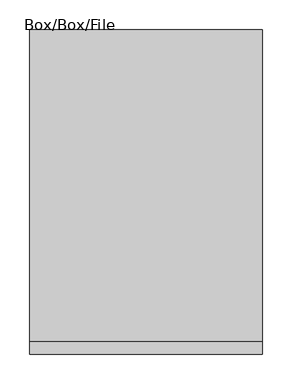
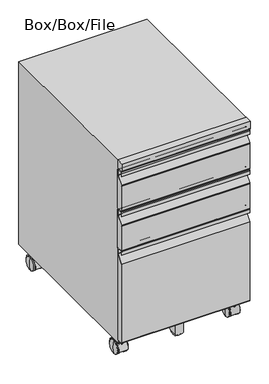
"""IFC4 building model written with IfcOpenShell, lengths in millimetres: furniture geometry, SmithSystem_AM_Storage_Pedestal_Drawer : Box/Box/File."""

from ifc_helpers import new_model, si_unit, point, frame, frame_2d, origin, place, context, project, spatial, polyline, circle_curve, ellipse_curve, trimmed, segment, composite_curve, outline, extrude, source, transform, mapped, element, save
from ifc_brep_helpers import plane_surface, cylinder_surface, revolved_surface, advanced_brep


def box_box_file_3f059d02(model_context):
    return source(origin(), model_context, "Body", "SolidModel", [
        extrude(outline(composite_curve([segment(trimmed(circle_curve(frame_2d((25.519541, 0.0)), 17.569454), [point((12.5128082, -11.8114611))], [point((12.5128082, 11.8114611))], False, "CARTESIAN"), True, "CONTINUOUS"), segment(polyline([(12.5128082, 11.8114611), (58.851629, 11.8114611), (58.851629, -11.8114611), (12.5128082, -11.8114611)]), True, "CONTINUOUS")], self_intersect=False)), frame((0.0, -239.1801908, 0.0), z_axis=(0.0, 1.0, 0.0), x_axis=(0.0, 0.0, 1.0)), (0.0, 0.0, 1.0), 1.9717693),
        extrude(outline(composite_curve([segment(polyline([(-218.8000524, 47.8691672), (-213.0953253, 47.8691672), (-209.8083234, 35.6019092)]), True, "CONTINUOUS"), segment(trimmed(circle_curve(frame_2d((-273.700867, 18.4819538)), 66.1464285), [point((-209.8083234, 35.6019092))], [point((-207.5648143, 17.310401))], False, "CARTESIAN"), True, "CONTINUOUS"), segment(trimmed(circle_curve(frame_2d((-212.4492427, 17.3969251)), 4.8851947), [point((-207.5648143, 17.310401))], [point((-212.3466334, 12.5128082))], False, "CARTESIAN"), True, "CONTINUOUS"), segment(polyline([(-212.3466334, 12.5128082), (-238.5451908, 12.5128082), (-238.5451908, 57.7565582), (-246.8469422, 57.7565582), (-246.8469422, 58.851629), (-208.747142, 58.851629), (-208.747142, 57.7565582), (-218.8000524, 57.7565582), (-218.8000524, 47.8691672)]), True, "CONTINUOUS")], self_intersect=False)), frame((-11.8114611, 0.0, 0.0), z_axis=(1.0, 0.0, 0.0), x_axis=(0.0, 1.0, 0.0)), (0.0, 0.0, 1.0), 2.1259673),
        extrude(outline(composite_curve([segment(polyline([(-218.8000524, 47.8691672), (-213.0953253, 47.8691672), (-209.8083234, 35.6019092)]), True, "CONTINUOUS"), segment(trimmed(circle_curve(frame_2d((-273.700867, 18.4819538)), 66.1464285), [point((-209.8083234, 35.6019092))], [point((-207.5648143, 17.310401))], False, "CARTESIAN"), True, "CONTINUOUS"), segment(trimmed(circle_curve(frame_2d((-212.4492427, 17.3969251)), 4.8851947), [point((-207.5648143, 17.310401))], [point((-212.3466334, 12.5128082))], False, "CARTESIAN"), True, "CONTINUOUS"), segment(polyline([(-212.3466334, 12.5128082), (-238.5451908, 12.5128082), (-238.5451908, 57.7565582), (-246.8469422, 57.7565582), (-246.8469422, 58.851629), (-208.747142, 58.851629), (-208.747142, 57.7565582), (-218.8000524, 57.7565582), (-218.8000524, 47.8691672)]), True, "CONTINUOUS")], self_intersect=False)), frame((9.6854938, 0.0, 0.0), z_axis=(1.0, 0.0, 0.0), x_axis=(0.0, 1.0, 0.0)), (0.0, 0.0, 1.0), 2.1259673),
        extrude(outline(composite_curve([segment(trimmed(circle_curve(frame_2d((-220.2090512, 19.1855053)), 19.05), [point((-239.2590512, 19.1855053))], [point((-201.1590512, 19.1855053))], False, "CARTESIAN"), True, "CONTINUOUS"), segment(trimmed(circle_curve(frame_2d((-220.2090512, 19.1855053)), 19.05), [point((-201.1590512, 19.1855053))], [point((-239.2590512, 19.1855053))], False, "CARTESIAN"), True, "CONTINUOUS")], self_intersect=False)), frame((-7.8737785, 0.0, 0.0), z_axis=(1.0, 0.0, 0.0), x_axis=(0.0, 1.0, 0.0)), (0.0, 0.0, 1.0), 15.7491352),
        advanced_brep(
        [(-172.640625, 209.3812508, 32.2912453), (-172.640625, 221.4847995, 32.2912453), (-172.640625, 215.4330251, 32.2912453), (-172.640625, 209.3812508, 47.5922196), (-172.640625, 221.4847995, 47.5922196), (-172.640625, 211.8974306, 47.5922196), (-172.640625, 218.9686197, 47.5922196), (-172.640625, 211.8974306, 50.5480504), (-172.640625, 218.9686197, 50.5480504), (-172.640625, 208.9918038, 50.5480504), (-172.640625, 221.8742465, 50.5480504), (-172.640625, 208.9918038, 53.7603737), (-172.640625, 221.8742465, 53.7603737), (-172.640625, 204.0569269, 57.7565582), (-172.640625, 226.8091233, 57.7565582), (-172.640625, 204.0569269, 58.8558526), (-172.640625, 226.8091233, 58.8558526), (-172.640625, 215.4330251, 58.8558526)],
        [
            (0, 1, circle_curve(frame((-172.640625, 215.4330251, 32.2912453), z_axis=(0.0, 0.0, -1.0), x_axis=(0.0, 1.0, 0.0)), 6.0517744)),
            (1, 2),
            (2, 0),
            (1, 0, circle_curve(frame((-172.640625, 215.4330251, 32.2912453), z_axis=(0.0, 0.0, -1.0), x_axis=(0.0, 1.0, 0.0)), 6.0517744)),
            (3, 4, circle_curve(frame((-172.640625, 215.4330251, 47.5922196), z_axis=(0.0, 0.0, -1.0), x_axis=(0.0, 1.0, 0.0)), 6.0517744)),
            (4, 1),
            (0, 3),
            (4, 3, circle_curve(frame((-172.640625, 215.4330251, 47.5922196), z_axis=(0.0, 0.0, -1.0), x_axis=(0.0, 1.0, 0.0)), 6.0517744)),
            (5, 6, circle_curve(frame((-172.640625, 215.4330251, 47.5922196), z_axis=(0.0, 0.0, -1.0), x_axis=(0.0, 1.0, 0.0)), 3.5355946)),
            (6, 4),
            (3, 5),
            (6, 5, circle_curve(frame((-172.640625, 215.4330251, 47.5922196), z_axis=(0.0, 0.0, -1.0), x_axis=(0.0, 1.0, 0.0)), 3.5355946)),
            (7, 8, circle_curve(frame((-172.640625, 215.4330251, 50.5480504), z_axis=(0.0, 0.0, -1.0), x_axis=(0.0, 1.0, 0.0)), 3.5355946)),
            (8, 6),
            (5, 7),
            (8, 7, circle_curve(frame((-172.640625, 215.4330251, 50.5480504), z_axis=(0.0, 0.0, -1.0), x_axis=(0.0, 1.0, 0.0)), 3.5355946)),
            (9, 10, circle_curve(frame((-172.640625, 215.4330251, 50.5480504), z_axis=(0.0, 0.0, -1.0), x_axis=(0.0, 1.0, 0.0)), 6.4412214)),
            (10, 8),
            (7, 9),
            (10, 9, circle_curve(frame((-172.640625, 215.4330251, 50.5480504), z_axis=(0.0, 0.0, -1.0), x_axis=(0.0, 1.0, 0.0)), 6.4412214)),
            (11, 12, circle_curve(frame((-172.640625, 215.4330251, 53.7603737), z_axis=(0.0, 0.0, -1.0), x_axis=(0.0, 1.0, 0.0)), 6.4412214)),
            (12, 10),
            (9, 11),
            (12, 11, circle_curve(frame((-172.640625, 215.4330251, 53.7603737), z_axis=(0.0, 0.0, -1.0), x_axis=(0.0, 1.0, 0.0)), 6.4412214)),
            (13, 14, circle_curve(frame((-172.640625, 215.4330251, 57.7565582), z_axis=(0.0, 0.0, -1.0), x_axis=(0.0, 1.0, 0.0)), 11.3760982)),
            (14, 12),
            (11, 13),
            (14, 13, circle_curve(frame((-172.640625, 215.4330251, 57.7565582), z_axis=(0.0, 0.0, -1.0), x_axis=(0.0, 1.0, 0.0)), 11.3760982)),
            (15, 16, circle_curve(frame((-172.640625, 215.4330251, 58.8558526), z_axis=(0.0, 0.0, -1.0), x_axis=(0.0, 1.0, 0.0)), 11.3760982)),
            (16, 14),
            (13, 15),
            (16, 15, circle_curve(frame((-172.640625, 215.4330251, 58.8558526), z_axis=(0.0, 0.0, -1.0), x_axis=(0.0, 1.0, 0.0)), 11.3760982)),
            (17, 16),
            (15, 17),
        ],
        [
            plane_surface(frame((-172.640625, 215.4330251, 32.2912453), z_axis=(0.0, 0.0, -1.0), x_axis=(0.0, 1.0, 0.0))),
            cylinder_surface(frame((-172.640625, 215.4330251, 52.5058526), z_axis=(0.0, 0.0, 1.0), x_axis=(0.0, 1.0, 0.0)), 6.0517744),
            plane_surface(frame((-172.640625, 215.4330251, 47.5922196), z_axis=(0.0, 0.0, 1.0), x_axis=(0.0, 1.0, 0.0))),
            cylinder_surface(frame((-172.640625, 215.4330251, 52.5058526), z_axis=(0.0, 0.0, 1.0), x_axis=(0.0, 1.0, 0.0)), 3.5355946),
            plane_surface(frame((-172.640625, 215.4330251, 50.5480504), z_axis=(0.0, 0.0, -1.0), x_axis=(0.0, 1.0, 0.0))),
            cylinder_surface(frame((-172.640625, 215.4330251, 52.5058526), z_axis=(0.0, 0.0, 1.0), x_axis=(0.0, 1.0, 0.0)), 6.4412214),
            revolved_surface(polyline([(-172.640625, 221.8742465, 53.7603737), (-172.640625, 226.8091233, 57.7565582)]), (-172.640625, 215.4330251, 52.5058526), (0.0, 0.0, 1.0)),
            cylinder_surface(frame((-172.640625, 215.4330251, 52.5058526), z_axis=(0.0, 0.0, 1.0), x_axis=(0.0, 1.0, 0.0)), 11.3760982),
            plane_surface(frame((-172.640625, 215.4330251, 58.8558526), z_axis=(0.0, 0.0, 1.0), x_axis=(0.0, 1.0, 0.0))),
        ],
        [
            (0, [[1, 2, 3]]),
            (0, [[4, -3, -2]]),
            (1, [[5, 6, -1, 7]]),
            (1, [[8, -7, -4, -6]]),
            (2, [[9, 10, -5, 11]]),
            (2, [[12, -11, -8, -10]]),
            (3, [[13, 14, -9, 15]]),
            (3, [[16, -15, -12, -14]]),
            (4, [[17, 18, -13, 19]]),
            (4, [[20, -19, -16, -18]]),
            (5, [[21, 22, -17, 23]]),
            (5, [[24, -23, -20, -22]]),
            (6, [[25, 26, -21, 27]]),
            (6, [[28, -27, -24, -26]]),
            (7, [[29, 30, -25, 31]]),
            (7, [[32, -31, -28, -30]]),
            (8, [[33, -29, 34]]),
            (8, [[-34, -32, -33]]),
        ],
    ),
        extrude(outline(composite_curve([segment(polyline([(206.6785166, 14.1727053), (205.3366399, 14.1727053)]), True, "CONTINUOUS"), segment(trimmed(circle_curve(frame_2d((229.3615093, 20.8903031)), 24.9463518), [point((205.3366399, 14.1727053))], [point((253.3863787, 14.1727053))], False, "CARTESIAN"), True, "CONTINUOUS"), segment(polyline([(253.3863787, 14.1727053), (251.1285166, 14.1727053)]), True, "CONTINUOUS"), segment(trimmed(circle_curve(frame_2d((228.9035166, 20.3274442)), 23.0614708), [point((251.1285166, 14.1727053))], [point((206.6785166, 14.1727053))], True, "CARTESIAN"), True, "CONTINUOUS")], self_intersect=False)), frame((-185.6622958, 0.0, 0.0), z_axis=(1.0, 0.0, 0.0), x_axis=(0.0, 1.0, 0.0)), (0.0, 0.0, 1.0), 27.6209603),
        advanced_brep(
        [(-164.0722879, 229.39375, -0.0102593), (-164.0722879, 229.39375, 41.1593949), (-155.4362235, 229.39375, 41.1593949), (-155.4362235, 229.39375, -0.0102593), (-152.8790182, 229.39375, 20.5745678), (-164.0722879, 229.39375, 20.5745678)],
        [
            (0, 1, circle_curve(frame((-164.0722879, 229.39375, 20.5745678), z_axis=(1.0, 0.0, 0.0), x_axis=(0.0, 0.0, 1.0)), 20.5848271)),
            (1, 2),
            (2, 3, circle_curve(frame((-155.4362235, 229.39375, 20.5745678), z_axis=(-1.0, 0.0, 0.0), x_axis=(0.0, 0.0, 1.0)), 20.5848271)),
            (3, 0),
            (1, 0, circle_curve(frame((-164.0722879, 229.39375, 20.5745678), z_axis=(1.0, 0.0, 0.0), x_axis=(0.0, 0.0, 1.0)), 20.5848271)),
            (3, 2, circle_curve(frame((-155.4362235, 229.39375, 20.5745678), z_axis=(-1.0, 0.0, 0.0), x_axis=(0.0, 0.0, 1.0)), 20.5848271)),
            (2, 4, circle_curve(frame((-214.5759981, 229.39375, 23.3613464), z_axis=(0.0, 1.0, 0.0), x_axis=(-1.0, 0.0, 0.0)), 61.7598856)),
            (4, 3, circle_curve(frame((-214.5759981, 229.39375, 17.7877892), z_axis=(0.0, 1.0, 0.0), x_axis=(-1.0, 0.0, 0.0)), 61.7598856)),
            (5, 1),
            (0, 5),
        ],
        [
            cylinder_surface(frame((-160.3278037, 229.39375, 20.5745678), z_axis=(-1.0, 0.0, 0.0), x_axis=(0.0, 0.0, 1.0)), 20.5848271),
            revolved_surface(trimmed(ellipse_curve(frame((-214.5759981, 229.39375, 23.3613464), z_axis=(0.0, -1.0, 0.0), x_axis=(-1.0, 0.0, 0.0)), 61.7598856, 61.7598856), [point((-152.8790182, 229.39375, 20.5745678))], [point((-155.4362235, 229.39375, 41.1593949))], True, "CARTESIAN"), (-160.3278037, 229.39375, 20.5745678), (-1.0, 0.0, 0.0)),
            plane_surface(frame((-164.0722879, 229.39375, 20.5745678), z_axis=(-1.0, 0.0, 0.0), x_axis=(0.0, 0.0, 1.0))),
        ],
        [
            (0, [[1, 2, 3, 4]]),
            (0, [[5, -4, 6, -2]]),
            (1, [[-3, 7, 8]]),
            (1, [[-6, -8, -7]]),
            (2, [[9, -1, 10]]),
            (2, [[-10, -5, -9]]),
        ],
    ),
        advanced_brep(
        [(-188.2674144, 229.39375, -0.0102593), (-188.2674144, 229.39375, 41.1593949), (-179.63135, 229.39375, 41.1593949), (-179.63135, 229.39375, -0.0102593), (-190.8246198, 229.39375, 20.5745678), (-179.63135, 229.39375, 20.5745678)],
        [
            (0, 1, circle_curve(frame((-188.2674144, 229.39375, 20.5745678), z_axis=(1.0, 0.0, 0.0), x_axis=(0.0, 0.0, 1.0)), 20.5848271)),
            (1, 2),
            (2, 3, circle_curve(frame((-179.63135, 229.39375, 20.5745678), z_axis=(-1.0, 0.0, 0.0), x_axis=(0.0, 0.0, 1.0)), 20.5848271)),
            (3, 0),
            (1, 0, circle_curve(frame((-188.2674144, 229.39375, 20.5745678), z_axis=(1.0, 0.0, 0.0), x_axis=(0.0, 0.0, 1.0)), 20.5848271)),
            (3, 2, circle_curve(frame((-179.63135, 229.39375, 20.5745678), z_axis=(-1.0, 0.0, 0.0), x_axis=(0.0, 0.0, 1.0)), 20.5848271)),
            (4, 1, circle_curve(frame((-129.1276399, 229.39375, 23.3613464), z_axis=(0.0, 1.0, 0.0), x_axis=(1.0, 0.0, 0.0)), 61.7598856)),
            (0, 4, circle_curve(frame((-129.1276399, 229.39375, 17.7877892), z_axis=(0.0, 1.0, 0.0), x_axis=(1.0, 0.0, 0.0)), 61.7598856)),
            (2, 5),
            (5, 3),
        ],
        [
            cylinder_surface(frame((-183.3758343, 229.39375, 20.5745678), z_axis=(-1.0, 0.0, 0.0), x_axis=(0.0, 0.0, 1.0)), 20.5848271),
            revolved_surface(trimmed(ellipse_curve(frame((-129.1276399, 229.39375, 23.3613464), z_axis=(0.0, -1.0, 0.0), x_axis=(1.0, 0.0, 0.0)), 61.7598856, 61.7598856), [point((-188.2674144, 229.39375, 41.1593949))], [point((-190.8246198, 229.39375, 20.5745678))], True, "CARTESIAN"), (-183.3758343, 229.39375, 20.5745678), (-1.0, 0.0, 0.0)),
            plane_surface(frame((-179.63135, 229.39375, 20.5745678), z_axis=(1.0, 0.0, 0.0), x_axis=(0.0, 0.0, 1.0))),
        ],
        [
            (0, [[1, 2, 3, 4]]),
            (0, [[5, -4, 6, -2]]),
            (1, [[7, -1, 8]]),
            (1, [[-8, -5, -7]]),
            (2, [[-3, 9, 10]]),
            (2, [[-6, -10, -9]]),
        ],
    ),
        advanced_brep(
        [(172.640625, 215.4330251, 32.2912453), (172.640625, 221.4847995, 32.2912453), (172.640625, 209.3812508, 32.2912453), (172.640625, 221.4847995, 47.5922196), (172.640625, 209.3812508, 47.5922196), (172.640625, 218.9686197, 47.5922196), (172.640625, 211.8974306, 47.5922196), (172.640625, 218.9686197, 50.5480504), (172.640625, 211.8974306, 50.5480504), (172.640625, 221.8742465, 50.5480504), (172.640625, 208.9918038, 50.5480504), (172.640625, 221.8742465, 53.7603737), (172.640625, 208.9918038, 53.7603737), (172.640625, 226.8091233, 57.7565582), (172.640625, 204.0569269, 57.7565582), (172.640625, 226.8091233, 58.8558526), (172.640625, 204.0569269, 58.8558526), (172.640625, 215.4330251, 58.8558526)],
        [
            (0, 1),
            (1, 2, circle_curve(frame((172.640625, 215.4330251, 32.2912453), z_axis=(0.0, 0.0, -1.0), x_axis=(0.0, 1.0, 0.0)), 6.0517744)),
            (2, 0),
            (2, 1, circle_curve(frame((172.640625, 215.4330251, 32.2912453), z_axis=(0.0, 0.0, -1.0), x_axis=(0.0, 1.0, 0.0)), 6.0517744)),
            (1, 3),
            (3, 4, circle_curve(frame((172.640625, 215.4330251, 47.5922196), z_axis=(0.0, 0.0, -1.0), x_axis=(0.0, 1.0, 0.0)), 6.0517744)),
            (4, 2),
            (4, 3, circle_curve(frame((172.640625, 215.4330251, 47.5922196), z_axis=(0.0, 0.0, -1.0), x_axis=(0.0, 1.0, 0.0)), 6.0517744)),
            (3, 5),
            (5, 6, circle_curve(frame((172.640625, 215.4330251, 47.5922196), z_axis=(0.0, 0.0, -1.0), x_axis=(0.0, 1.0, 0.0)), 3.5355946)),
            (6, 4),
            (6, 5, circle_curve(frame((172.640625, 215.4330251, 47.5922196), z_axis=(0.0, 0.0, -1.0), x_axis=(0.0, 1.0, 0.0)), 3.5355946)),
            (5, 7),
            (7, 8, circle_curve(frame((172.640625, 215.4330251, 50.5480504), z_axis=(0.0, 0.0, -1.0), x_axis=(0.0, 1.0, 0.0)), 3.5355946)),
            (8, 6),
            (8, 7, circle_curve(frame((172.640625, 215.4330251, 50.5480504), z_axis=(0.0, 0.0, -1.0), x_axis=(0.0, 1.0, 0.0)), 3.5355946)),
            (7, 9),
            (9, 10, circle_curve(frame((172.640625, 215.4330251, 50.5480504), z_axis=(0.0, 0.0, -1.0), x_axis=(0.0, 1.0, 0.0)), 6.4412214)),
            (10, 8),
            (10, 9, circle_curve(frame((172.640625, 215.4330251, 50.5480504), z_axis=(0.0, 0.0, -1.0), x_axis=(0.0, 1.0, 0.0)), 6.4412214)),
            (9, 11),
            (11, 12, circle_curve(frame((172.640625, 215.4330251, 53.7603737), z_axis=(0.0, 0.0, -1.0), x_axis=(0.0, 1.0, 0.0)), 6.4412214)),
            (12, 10),
            (12, 11, circle_curve(frame((172.640625, 215.4330251, 53.7603737), z_axis=(0.0, 0.0, -1.0), x_axis=(0.0, 1.0, 0.0)), 6.4412214)),
            (11, 13),
            (13, 14, circle_curve(frame((172.640625, 215.4330251, 57.7565582), z_axis=(0.0, 0.0, -1.0), x_axis=(0.0, 1.0, 0.0)), 11.3760982)),
            (14, 12),
            (14, 13, circle_curve(frame((172.640625, 215.4330251, 57.7565582), z_axis=(0.0, 0.0, -1.0), x_axis=(0.0, 1.0, 0.0)), 11.3760982)),
            (13, 15),
            (15, 16, circle_curve(frame((172.640625, 215.4330251, 58.8558526), z_axis=(0.0, 0.0, -1.0), x_axis=(0.0, 1.0, 0.0)), 11.3760982)),
            (16, 14),
            (16, 15, circle_curve(frame((172.640625, 215.4330251, 58.8558526), z_axis=(0.0, 0.0, -1.0), x_axis=(0.0, 1.0, 0.0)), 11.3760982)),
            (15, 17),
            (17, 16),
        ],
        [
            plane_surface(frame((172.640625, 215.4330251, 32.2912453), z_axis=(0.0, 0.0, -1.0), x_axis=(0.0, 1.0, 0.0))),
            cylinder_surface(frame((172.640625, 215.4330251, 52.5058526), z_axis=(0.0, 0.0, -1.0), x_axis=(0.0, 1.0, 0.0)), 6.0517744),
            plane_surface(frame((172.640625, 215.4330251, 47.5922196), z_axis=(0.0, 0.0, 1.0), x_axis=(0.0, 1.0, 0.0))),
            cylinder_surface(frame((172.640625, 215.4330251, 52.5058526), z_axis=(0.0, 0.0, -1.0), x_axis=(0.0, 1.0, 0.0)), 3.5355946),
            plane_surface(frame((172.640625, 215.4330251, 50.5480504), z_axis=(0.0, 0.0, -1.0), x_axis=(0.0, 1.0, 0.0))),
            cylinder_surface(frame((172.640625, 215.4330251, 52.5058526), z_axis=(0.0, 0.0, -1.0), x_axis=(0.0, 1.0, 0.0)), 6.4412214),
            revolved_surface(polyline([(172.640625, 226.8091233, 57.7565582), (172.640625, 221.8742465, 53.7603737)]), (172.640625, 215.4330251, 52.5058526), (0.0, 0.0, -1.0)),
            cylinder_surface(frame((172.640625, 215.4330251, 52.5058526), z_axis=(0.0, 0.0, -1.0), x_axis=(0.0, 1.0, 0.0)), 11.3760982),
            plane_surface(frame((172.640625, 215.4330251, 58.8558526), z_axis=(0.0, 0.0, 1.0), x_axis=(0.0, 1.0, 0.0))),
        ],
        [
            (0, [[1, 2, 3]]),
            (0, [[-3, 4, -1]]),
            (1, [[-2, 5, 6, 7]]),
            (1, [[-4, -7, 8, -5]]),
            (2, [[-6, 9, 10, 11]]),
            (2, [[-8, -11, 12, -9]]),
            (3, [[-10, 13, 14, 15]]),
            (3, [[-12, -15, 16, -13]]),
            (4, [[-14, 17, 18, 19]]),
            (4, [[-16, -19, 20, -17]]),
            (5, [[-18, 21, 22, 23]]),
            (5, [[-20, -23, 24, -21]]),
            (6, [[-22, 25, 26, 27]]),
            (6, [[-24, -27, 28, -25]]),
            (7, [[-26, 29, 30, 31]]),
            (7, [[-28, -31, 32, -29]]),
            (8, [[-30, 33, 34]]),
            (8, [[-32, -34, -33]]),
        ],
    ),
        extrude(outline(composite_curve([segment(polyline([(206.6785166, 14.1727053), (205.3366399, 14.1727053)]), True, "CONTINUOUS"), segment(trimmed(circle_curve(frame_2d((229.3615093, 20.8903031)), 24.9463518), [point((205.3366399, 14.1727053))], [point((253.3863787, 14.1727053))], False, "CARTESIAN"), True, "CONTINUOUS"), segment(polyline([(253.3863787, 14.1727053), (251.1285166, 14.1727053)]), True, "CONTINUOUS"), segment(trimmed(circle_curve(frame_2d((228.9035166, 20.3274442)), 23.0614708), [point((251.1285166, 14.1727053))], [point((206.6785166, 14.1727053))], True, "CARTESIAN"), True, "CONTINUOUS")], self_intersect=False)), frame((158.0413355, 0.0, 0.0), z_axis=(1.0, 0.0, 0.0), x_axis=(0.0, 1.0, 0.0)), (0.0, 0.0, 1.0), 27.6209603),
        advanced_brep(
        [(155.4362235, 229.39375, -0.0102593), (155.4362235, 229.39375, 41.1593949), (164.0722879, 229.39375, 41.1593949), (164.0722879, 229.39375, -0.0102593), (152.8790182, 229.39375, 20.5745678), (164.0722879, 229.39375, 20.5745678)],
        [
            (0, 1, circle_curve(frame((155.4362235, 229.39375, 20.5745678), z_axis=(1.0, 0.0, 0.0), x_axis=(0.0, 0.0, 1.0)), 20.5848271)),
            (1, 2),
            (2, 3, circle_curve(frame((164.0722879, 229.39375, 20.5745678), z_axis=(-1.0, 0.0, 0.0), x_axis=(0.0, 0.0, 1.0)), 20.5848271)),
            (3, 0),
            (1, 0, circle_curve(frame((155.4362235, 229.39375, 20.5745678), z_axis=(1.0, 0.0, 0.0), x_axis=(0.0, 0.0, 1.0)), 20.5848271)),
            (3, 2, circle_curve(frame((164.0722879, 229.39375, 20.5745678), z_axis=(-1.0, 0.0, 0.0), x_axis=(0.0, 0.0, 1.0)), 20.5848271)),
            (4, 1, circle_curve(frame((214.5759981, 229.39375, 23.3613464), z_axis=(0.0, 1.0, 0.0), x_axis=(1.0, 0.0, 0.0)), 61.7598856)),
            (0, 4, circle_curve(frame((214.5759981, 229.39375, 17.7877892), z_axis=(0.0, 1.0, 0.0), x_axis=(1.0, 0.0, 0.0)), 61.7598856)),
            (2, 5),
            (5, 3),
        ],
        [
            cylinder_surface(frame((160.3278037, 229.39375, 20.5745678), z_axis=(-1.0, 0.0, 0.0), x_axis=(0.0, 0.0, 1.0)), 20.5848271),
            revolved_surface(trimmed(ellipse_curve(frame((214.5759981, 229.39375, 23.3613464), z_axis=(0.0, -1.0, 0.0), x_axis=(1.0, 0.0, 0.0)), 61.7598856, 61.7598856), [point((155.4362235, 229.39375, 41.1593949))], [point((152.8790182, 229.39375, 20.5745678))], True, "CARTESIAN"), (160.3278037, 229.39375, 20.5745678), (-1.0, 0.0, 0.0)),
            plane_surface(frame((164.0722879, 229.39375, 20.5745678), z_axis=(1.0, 0.0, 0.0), x_axis=(0.0, 0.0, 1.0))),
        ],
        [
            (0, [[1, 2, 3, 4]]),
            (0, [[5, -4, 6, -2]]),
            (1, [[7, -1, 8]]),
            (1, [[-8, -5, -7]]),
            (2, [[-3, 9, 10]]),
            (2, [[-6, -10, -9]]),
        ],
    ),
        advanced_brep(
        [(179.63135, 229.39375, -0.0102593), (179.63135, 229.39375, 41.1593949), (188.2674144, 229.39375, 41.1593949), (188.2674144, 229.39375, -0.0102593), (190.8246198, 229.39375, 20.5745678), (179.63135, 229.39375, 20.5745678)],
        [
            (0, 1, circle_curve(frame((179.63135, 229.39375, 20.5745678), z_axis=(1.0, 0.0, 0.0), x_axis=(0.0, 0.0, 1.0)), 20.5848271)),
            (1, 2),
            (2, 3, circle_curve(frame((188.2674144, 229.39375, 20.5745678), z_axis=(-1.0, 0.0, 0.0), x_axis=(0.0, 0.0, 1.0)), 20.5848271)),
            (3, 0),
            (1, 0, circle_curve(frame((179.63135, 229.39375, 20.5745678), z_axis=(1.0, 0.0, 0.0), x_axis=(0.0, 0.0, 1.0)), 20.5848271)),
            (3, 2, circle_curve(frame((188.2674144, 229.39375, 20.5745678), z_axis=(-1.0, 0.0, 0.0), x_axis=(0.0, 0.0, 1.0)), 20.5848271)),
            (2, 4, circle_curve(frame((129.1276399, 229.39375, 23.3613464), z_axis=(0.0, 1.0, 0.0), x_axis=(-1.0, 0.0, 0.0)), 61.7598856)),
            (4, 3, circle_curve(frame((129.1276399, 229.39375, 17.7877892), z_axis=(0.0, 1.0, 0.0), x_axis=(-1.0, 0.0, 0.0)), 61.7598856)),
            (5, 1),
            (0, 5),
        ],
        [
            cylinder_surface(frame((183.3758343, 229.39375, 20.5745678), z_axis=(-1.0, 0.0, 0.0), x_axis=(0.0, 0.0, 1.0)), 20.5848271),
            revolved_surface(trimmed(ellipse_curve(frame((129.1276399, 229.39375, 23.3613464), z_axis=(0.0, -1.0, 0.0), x_axis=(-1.0, 0.0, 0.0)), 61.7598856, 61.7598856), [point((190.8246198, 229.39375, 20.5745678))], [point((188.2674144, 229.39375, 41.1593949))], True, "CARTESIAN"), (183.3758343, 229.39375, 20.5745678), (-1.0, 0.0, 0.0)),
            plane_surface(frame((179.63135, 229.39375, 20.5745678), z_axis=(-1.0, 0.0, 0.0), x_axis=(0.0, 0.0, 1.0))),
        ],
        [
            (0, [[1, 2, 3, 4]]),
            (0, [[5, -4, 6, -2]]),
            (1, [[-3, 7, 8]]),
            (1, [[-6, -8, -7]]),
            (2, [[9, -1, 10]]),
            (2, [[-10, -5, -9]]),
        ],
    ),
        advanced_brep(
        [(172.640625, -227.7969749, 32.2912453), (172.640625, -221.7452005, 32.2912453), (172.640625, -233.8487492, 32.2912453), (172.640625, -221.7452005, 47.5922196), (172.640625, -233.8487492, 47.5922196), (172.640625, -224.2613803, 47.5922196), (172.640625, -231.3325694, 47.5922196), (172.640625, -224.2613803, 50.5480504), (172.640625, -231.3325694, 50.5480504), (172.640625, -221.3557535, 50.5480504), (172.640625, -234.2381962, 50.5480504), (172.640625, -221.3557535, 53.7603737), (172.640625, -234.2381962, 53.7603737), (172.640625, -216.4208767, 57.7565582), (172.640625, -239.1730731, 57.7565582), (172.640625, -216.4208767, 58.8558526), (172.640625, -239.1730731, 58.8558526), (172.640625, -227.7969749, 58.8558526)],
        [
            (0, 1),
            (1, 2, circle_curve(frame((172.640625, -227.7969749, 32.2912453), z_axis=(0.0, 0.0, -1.0), x_axis=(0.0, 1.0, 0.0)), 6.0517744)),
            (2, 0),
            (2, 1, circle_curve(frame((172.640625, -227.7969749, 32.2912453), z_axis=(0.0, 0.0, -1.0), x_axis=(0.0, 1.0, 0.0)), 6.0517744)),
            (1, 3),
            (3, 4, circle_curve(frame((172.640625, -227.7969749, 47.5922196), z_axis=(0.0, 0.0, -1.0), x_axis=(0.0, 1.0, 0.0)), 6.0517744)),
            (4, 2),
            (4, 3, circle_curve(frame((172.640625, -227.7969749, 47.5922196), z_axis=(0.0, 0.0, -1.0), x_axis=(0.0, 1.0, 0.0)), 6.0517744)),
            (3, 5),
            (5, 6, circle_curve(frame((172.640625, -227.7969749, 47.5922196), z_axis=(0.0, 0.0, -1.0), x_axis=(0.0, 1.0, 0.0)), 3.5355946)),
            (6, 4),
            (6, 5, circle_curve(frame((172.640625, -227.7969749, 47.5922196), z_axis=(0.0, 0.0, -1.0), x_axis=(0.0, 1.0, 0.0)), 3.5355946)),
            (5, 7),
            (7, 8, circle_curve(frame((172.640625, -227.7969749, 50.5480504), z_axis=(0.0, 0.0, -1.0), x_axis=(0.0, 1.0, 0.0)), 3.5355946)),
            (8, 6),
            (8, 7, circle_curve(frame((172.640625, -227.7969749, 50.5480504), z_axis=(0.0, 0.0, -1.0), x_axis=(0.0, 1.0, 0.0)), 3.5355946)),
            (7, 9),
            (9, 10, circle_curve(frame((172.640625, -227.7969749, 50.5480504), z_axis=(0.0, 0.0, -1.0), x_axis=(0.0, 1.0, 0.0)), 6.4412214)),
            (10, 8),
            (10, 9, circle_curve(frame((172.640625, -227.7969749, 50.5480504), z_axis=(0.0, 0.0, -1.0), x_axis=(0.0, 1.0, 0.0)), 6.4412214)),
            (9, 11),
            (11, 12, circle_curve(frame((172.640625, -227.7969749, 53.7603737), z_axis=(0.0, 0.0, -1.0), x_axis=(0.0, 1.0, 0.0)), 6.4412214)),
            (12, 10),
            (12, 11, circle_curve(frame((172.640625, -227.7969749, 53.7603737), z_axis=(0.0, 0.0, -1.0), x_axis=(0.0, 1.0, 0.0)), 6.4412214)),
            (11, 13),
            (13, 14, circle_curve(frame((172.640625, -227.7969749, 57.7565582), z_axis=(0.0, 0.0, -1.0), x_axis=(0.0, 1.0, 0.0)), 11.3760982)),
            (14, 12),
            (14, 13, circle_curve(frame((172.640625, -227.7969749, 57.7565582), z_axis=(0.0, 0.0, -1.0), x_axis=(0.0, 1.0, 0.0)), 11.3760982)),
            (13, 15),
            (15, 16, circle_curve(frame((172.640625, -227.7969749, 58.8558526), z_axis=(0.0, 0.0, -1.0), x_axis=(0.0, 1.0, 0.0)), 11.3760982)),
            (16, 14),
            (16, 15, circle_curve(frame((172.640625, -227.7969749, 58.8558526), z_axis=(0.0, 0.0, -1.0), x_axis=(0.0, 1.0, 0.0)), 11.3760982)),
            (15, 17),
            (17, 16),
        ],
        [
            plane_surface(frame((172.640625, -227.7969749, 32.2912453), z_axis=(0.0, 0.0, -1.0), x_axis=(0.0, 1.0, 0.0))),
            cylinder_surface(frame((172.640625, -227.7969749, 52.5058526), z_axis=(0.0, 0.0, -1.0), x_axis=(0.0, 1.0, 0.0)), 6.0517744),
            plane_surface(frame((172.640625, -227.7969749, 47.5922196), z_axis=(0.0, 0.0, 1.0), x_axis=(0.0, 1.0, 0.0))),
            cylinder_surface(frame((172.640625, -227.7969749, 52.5058526), z_axis=(0.0, 0.0, -1.0), x_axis=(0.0, 1.0, 0.0)), 3.5355946),
            plane_surface(frame((172.640625, -227.7969749, 50.5480504), z_axis=(0.0, 0.0, -1.0), x_axis=(0.0, 1.0, 0.0))),
            cylinder_surface(frame((172.640625, -227.7969749, 52.5058526), z_axis=(0.0, 0.0, -1.0), x_axis=(0.0, 1.0, 0.0)), 6.4412214),
            revolved_surface(polyline([(172.640625, -216.4208767, 57.7565582), (172.640625, -221.3557535, 53.7603737)]), (172.640625, -227.7969749, 52.5058526), (0.0, 0.0, -1.0)),
            cylinder_surface(frame((172.640625, -227.7969749, 52.5058526), z_axis=(0.0, 0.0, -1.0), x_axis=(0.0, 1.0, 0.0)), 11.3760982),
            plane_surface(frame((172.640625, -227.7969749, 58.8558526), z_axis=(0.0, 0.0, 1.0), x_axis=(0.0, 1.0, 0.0))),
        ],
        [
            (0, [[1, 2, 3]]),
            (0, [[-3, 4, -1]]),
            (1, [[-2, 5, 6, 7]]),
            (1, [[-4, -7, 8, -5]]),
            (2, [[-6, 9, 10, 11]]),
            (2, [[-8, -11, 12, -9]]),
            (3, [[-10, 13, 14, 15]]),
            (3, [[-12, -15, 16, -13]]),
            (4, [[-14, 17, 18, 19]]),
            (4, [[-16, -19, 20, -17]]),
            (5, [[-18, 21, 22, 23]]),
            (5, [[-20, -23, 24, -21]]),
            (6, [[-22, 25, 26, 27]]),
            (6, [[-24, -27, 28, -25]]),
            (7, [[-26, 29, 30, 31]]),
            (7, [[-28, -31, 32, -29]]),
            (8, [[-30, 33, 34]]),
            (8, [[-32, -34, -33]]),
        ],
    ),
        extrude(outline(composite_curve([segment(polyline([(-236.5514834, 14.1727053), (-237.8933601, 14.1727053)]), True, "CONTINUOUS"), segment(trimmed(circle_curve(frame_2d((-213.8684907, 20.8903031)), 24.9463518), [point((-237.8933601, 14.1727053))], [point((-189.8436213, 14.1727053))], False, "CARTESIAN"), True, "CONTINUOUS"), segment(polyline([(-189.8436213, 14.1727053), (-192.1014834, 14.1727053)]), True, "CONTINUOUS"), segment(trimmed(circle_curve(frame_2d((-214.3264834, 20.3274442)), 23.0614708), [point((-192.1014834, 14.1727053))], [point((-236.5514834, 14.1727053))], True, "CARTESIAN"), True, "CONTINUOUS")], self_intersect=False)), frame((158.0413355, 0.0, 0.0), z_axis=(1.0, 0.0, 0.0), x_axis=(0.0, 1.0, 0.0)), (0.0, 0.0, 1.0), 27.6209603),
        advanced_brep(
        [(155.4362235, -215.10625, -0.0102593), (155.4362235, -215.10625, 41.1593949), (164.0722879, -215.10625, 41.1593949), (164.0722879, -215.10625, -0.0102593), (152.8790182, -215.10625, 20.5745678), (164.0722879, -215.10625, 20.5745678)],
        [
            (0, 1, circle_curve(frame((155.4362235, -215.10625, 20.5745678), z_axis=(1.0, 0.0, 0.0), x_axis=(0.0, 0.0, 1.0)), 20.5848271)),
            (1, 2),
            (2, 3, circle_curve(frame((164.0722879, -215.10625, 20.5745678), z_axis=(-1.0, 0.0, 0.0), x_axis=(0.0, 0.0, 1.0)), 20.5848271)),
            (3, 0),
            (1, 0, circle_curve(frame((155.4362235, -215.10625, 20.5745678), z_axis=(1.0, 0.0, 0.0), x_axis=(0.0, 0.0, 1.0)), 20.5848271)),
            (3, 2, circle_curve(frame((164.0722879, -215.10625, 20.5745678), z_axis=(-1.0, 0.0, 0.0), x_axis=(0.0, 0.0, 1.0)), 20.5848271)),
            (4, 1, circle_curve(frame((214.5759981, -215.10625, 23.3613464), z_axis=(0.0, 1.0, 0.0), x_axis=(1.0, 0.0, 0.0)), 61.7598856)),
            (0, 4, circle_curve(frame((214.5759981, -215.10625, 17.7877892), z_axis=(0.0, 1.0, 0.0), x_axis=(1.0, 0.0, 0.0)), 61.7598856)),
            (2, 5),
            (5, 3),
        ],
        [
            cylinder_surface(frame((160.3278037, -215.10625, 20.5745678), z_axis=(-1.0, 0.0, 0.0), x_axis=(0.0, 0.0, 1.0)), 20.5848271),
            revolved_surface(trimmed(ellipse_curve(frame((214.5759981, -215.10625, 23.3613464), z_axis=(0.0, -1.0, 0.0), x_axis=(1.0, 0.0, 0.0)), 61.7598856, 61.7598856), [point((155.4362235, -215.10625, 41.1593949))], [point((152.8790182, -215.10625, 20.5745678))], True, "CARTESIAN"), (160.3278037, -215.10625, 20.5745678), (-1.0, 0.0, 0.0)),
            plane_surface(frame((164.0722879, -215.10625, 20.5745678), z_axis=(1.0, 0.0, 0.0), x_axis=(0.0, 0.0, 1.0))),
        ],
        [
            (0, [[1, 2, 3, 4]]),
            (0, [[5, -4, 6, -2]]),
            (1, [[7, -1, 8]]),
            (1, [[-8, -5, -7]]),
            (2, [[-3, 9, 10]]),
            (2, [[-6, -10, -9]]),
        ],
    ),
        advanced_brep(
        [(179.63135, -215.10625, -0.0102593), (179.63135, -215.10625, 41.1593949), (188.2674144, -215.10625, 41.1593949), (188.2674144, -215.10625, -0.0102593), (190.8246198, -215.10625, 20.5745678), (179.63135, -215.10625, 20.5745678)],
        [
            (0, 1, circle_curve(frame((179.63135, -215.10625, 20.5745678), z_axis=(1.0, 0.0, 0.0), x_axis=(0.0, 0.0, 1.0)), 20.5848271)),
            (1, 2),
            (2, 3, circle_curve(frame((188.2674144, -215.10625, 20.5745678), z_axis=(-1.0, 0.0, 0.0), x_axis=(0.0, 0.0, 1.0)), 20.5848271)),
            (3, 0),
            (1, 0, circle_curve(frame((179.63135, -215.10625, 20.5745678), z_axis=(1.0, 0.0, 0.0), x_axis=(0.0, 0.0, 1.0)), 20.5848271)),
            (3, 2, circle_curve(frame((188.2674144, -215.10625, 20.5745678), z_axis=(-1.0, 0.0, 0.0), x_axis=(0.0, 0.0, 1.0)), 20.5848271)),
            (2, 4, circle_curve(frame((129.1276399, -215.10625, 23.3613464), z_axis=(0.0, 1.0, 0.0), x_axis=(-1.0, 0.0, 0.0)), 61.7598856)),
            (4, 3, circle_curve(frame((129.1276399, -215.10625, 17.7877892), z_axis=(0.0, 1.0, 0.0), x_axis=(-1.0, 0.0, 0.0)), 61.7598856)),
            (5, 1),
            (0, 5),
        ],
        [
            cylinder_surface(frame((183.3758343, -215.10625, 20.5745678), z_axis=(-1.0, 0.0, 0.0), x_axis=(0.0, 0.0, 1.0)), 20.5848271),
            revolved_surface(trimmed(ellipse_curve(frame((129.1276399, -215.10625, 23.3613464), z_axis=(0.0, -1.0, 0.0), x_axis=(-1.0, 0.0, 0.0)), 61.7598856, 61.7598856), [point((190.8246198, -215.10625, 20.5745678))], [point((188.2674144, -215.10625, 41.1593949))], True, "CARTESIAN"), (183.3758343, -215.10625, 20.5745678), (-1.0, 0.0, 0.0)),
            plane_surface(frame((179.63135, -215.10625, 20.5745678), z_axis=(-1.0, 0.0, 0.0), x_axis=(0.0, 0.0, 1.0))),
        ],
        [
            (0, [[1, 2, 3, 4]]),
            (0, [[5, -4, 6, -2]]),
            (1, [[-3, 7, 8]]),
            (1, [[-6, -8, -7]]),
            (2, [[9, -1, 10]]),
            (2, [[-10, -5, -9]]),
        ],
    ),
        advanced_brep(
        [(-172.640625, -233.8487492, 32.2912453), (-172.640625, -221.7452005, 32.2912453), (-172.640625, -227.7969749, 32.2912453), (-172.640625, -233.8487492, 47.5922196), (-172.640625, -221.7452005, 47.5922196), (-172.640625, -231.3325694, 47.5922196), (-172.640625, -224.2613803, 47.5922196), (-172.640625, -231.3325694, 50.5480504), (-172.640625, -224.2613803, 50.5480504), (-172.640625, -234.2381962, 50.5480504), (-172.640625, -221.3557535, 50.5480504), (-172.640625, -234.2381962, 53.7603737), (-172.640625, -221.3557535, 53.7603737), (-172.640625, -239.1730731, 57.7565582), (-172.640625, -216.4208767, 57.7565582), (-172.640625, -239.1730731, 58.8558526), (-172.640625, -216.4208767, 58.8558526), (-172.640625, -227.7969749, 58.8558526)],
        [
            (0, 1, circle_curve(frame((-172.640625, -227.7969749, 32.2912453), z_axis=(0.0, 0.0, -1.0), x_axis=(0.0, 1.0, 0.0)), 6.0517744)),
            (1, 2),
            (2, 0),
            (1, 0, circle_curve(frame((-172.640625, -227.7969749, 32.2912453), z_axis=(0.0, 0.0, -1.0), x_axis=(0.0, 1.0, 0.0)), 6.0517744)),
            (3, 4, circle_curve(frame((-172.640625, -227.7969749, 47.5922196), z_axis=(0.0, 0.0, -1.0), x_axis=(0.0, 1.0, 0.0)), 6.0517744)),
            (4, 1),
            (0, 3),
            (4, 3, circle_curve(frame((-172.640625, -227.7969749, 47.5922196), z_axis=(0.0, 0.0, -1.0), x_axis=(0.0, 1.0, 0.0)), 6.0517744)),
            (5, 6, circle_curve(frame((-172.640625, -227.7969749, 47.5922196), z_axis=(0.0, 0.0, -1.0), x_axis=(0.0, 1.0, 0.0)), 3.5355946)),
            (6, 4),
            (3, 5),
            (6, 5, circle_curve(frame((-172.640625, -227.7969749, 47.5922196), z_axis=(0.0, 0.0, -1.0), x_axis=(0.0, 1.0, 0.0)), 3.5355946)),
            (7, 8, circle_curve(frame((-172.640625, -227.7969749, 50.5480504), z_axis=(0.0, 0.0, -1.0), x_axis=(0.0, 1.0, 0.0)), 3.5355946)),
            (8, 6),
            (5, 7),
            (8, 7, circle_curve(frame((-172.640625, -227.7969749, 50.5480504), z_axis=(0.0, 0.0, -1.0), x_axis=(0.0, 1.0, 0.0)), 3.5355946)),
            (9, 10, circle_curve(frame((-172.640625, -227.7969749, 50.5480504), z_axis=(0.0, 0.0, -1.0), x_axis=(0.0, 1.0, 0.0)), 6.4412214)),
            (10, 8),
            (7, 9),
            (10, 9, circle_curve(frame((-172.640625, -227.7969749, 50.5480504), z_axis=(0.0, 0.0, -1.0), x_axis=(0.0, 1.0, 0.0)), 6.4412214)),
            (11, 12, circle_curve(frame((-172.640625, -227.7969749, 53.7603737), z_axis=(0.0, 0.0, -1.0), x_axis=(0.0, 1.0, 0.0)), 6.4412214)),
            (12, 10),
            (9, 11),
            (12, 11, circle_curve(frame((-172.640625, -227.7969749, 53.7603737), z_axis=(0.0, 0.0, -1.0), x_axis=(0.0, 1.0, 0.0)), 6.4412214)),
            (13, 14, circle_curve(frame((-172.640625, -227.7969749, 57.7565582), z_axis=(0.0, 0.0, -1.0), x_axis=(0.0, 1.0, 0.0)), 11.3760982)),
            (14, 12),
            (11, 13),
            (14, 13, circle_curve(frame((-172.640625, -227.7969749, 57.7565582), z_axis=(0.0, 0.0, -1.0), x_axis=(0.0, 1.0, 0.0)), 11.3760982)),
            (15, 16, circle_curve(frame((-172.640625, -227.7969749, 58.8558526), z_axis=(0.0, 0.0, -1.0), x_axis=(0.0, 1.0, 0.0)), 11.3760982)),
            (16, 14),
            (13, 15),
            (16, 15, circle_curve(frame((-172.640625, -227.7969749, 58.8558526), z_axis=(0.0, 0.0, -1.0), x_axis=(0.0, 1.0, 0.0)), 11.3760982)),
            (17, 16),
            (15, 17),
        ],
        [
            plane_surface(frame((-172.640625, -227.7969749, 32.2912453), z_axis=(0.0, 0.0, -1.0), x_axis=(0.0, 1.0, 0.0))),
            cylinder_surface(frame((-172.640625, -227.7969749, 52.5058526), z_axis=(0.0, 0.0, 1.0), x_axis=(0.0, 1.0, 0.0)), 6.0517744),
            plane_surface(frame((-172.640625, -227.7969749, 47.5922196), z_axis=(0.0, 0.0, 1.0), x_axis=(0.0, 1.0, 0.0))),
            cylinder_surface(frame((-172.640625, -227.7969749, 52.5058526), z_axis=(0.0, 0.0, 1.0), x_axis=(0.0, 1.0, 0.0)), 3.5355946),
            plane_surface(frame((-172.640625, -227.7969749, 50.5480504), z_axis=(0.0, 0.0, -1.0), x_axis=(0.0, 1.0, 0.0))),
            cylinder_surface(frame((-172.640625, -227.7969749, 52.5058526), z_axis=(0.0, 0.0, 1.0), x_axis=(0.0, 1.0, 0.0)), 6.4412214),
            revolved_surface(polyline([(-172.640625, -221.3557535, 53.7603737), (-172.640625, -216.4208767, 57.7565582)]), (-172.640625, -227.7969749, 52.5058526), (0.0, 0.0, 1.0)),
            cylinder_surface(frame((-172.640625, -227.7969749, 52.5058526), z_axis=(0.0, 0.0, 1.0), x_axis=(0.0, 1.0, 0.0)), 11.3760982),
            plane_surface(frame((-172.640625, -227.7969749, 58.8558526), z_axis=(0.0, 0.0, 1.0), x_axis=(0.0, 1.0, 0.0))),
        ],
        [
            (0, [[1, 2, 3]]),
            (0, [[4, -3, -2]]),
            (1, [[5, 6, -1, 7]]),
            (1, [[8, -7, -4, -6]]),
            (2, [[9, 10, -5, 11]]),
            (2, [[12, -11, -8, -10]]),
            (3, [[13, 14, -9, 15]]),
            (3, [[16, -15, -12, -14]]),
            (4, [[17, 18, -13, 19]]),
            (4, [[20, -19, -16, -18]]),
            (5, [[21, 22, -17, 23]]),
            (5, [[24, -23, -20, -22]]),
            (6, [[25, 26, -21, 27]]),
            (6, [[28, -27, -24, -26]]),
            (7, [[29, 30, -25, 31]]),
            (7, [[32, -31, -28, -30]]),
            (8, [[33, -29, 34]]),
            (8, [[-34, -32, -33]]),
        ],
    ),
        extrude(outline(composite_curve([segment(trimmed(circle_curve(frame_2d((-171.8517215, -227.7957271)), 11.43), [point((-160.4217215, -227.7957271))], [point((-183.2817215, -227.7957271))], False, "CARTESIAN"), True, "CONTINUOUS"), segment(trimmed(circle_curve(frame_2d((-171.8517215, -227.7957271)), 11.43), [point((-183.2817215, -227.7957271))], [point((-160.4217215, -227.7957271))], False, "CARTESIAN"), True, "CONTINUOUS")], self_intersect=False)), frame((0.0, 0.0, 57.639773), z_axis=(0.0, 0.0, 1.0), x_axis=(1.0, 0.0, 0.0)), (0.0, 0.0, 1.0), 1.2592255),
        extrude(outline(composite_curve([segment(polyline([(-236.5514834, 14.1727053), (-237.8933601, 14.1727053)]), True, "CONTINUOUS"), segment(trimmed(circle_curve(frame_2d((-213.8684907, 20.8903031)), 24.9463518), [point((-237.8933601, 14.1727053))], [point((-189.8436213, 14.1727053))], False, "CARTESIAN"), True, "CONTINUOUS"), segment(polyline([(-189.8436213, 14.1727053), (-192.1014834, 14.1727053)]), True, "CONTINUOUS"), segment(trimmed(circle_curve(frame_2d((-214.3264834, 20.3274442)), 23.0614708), [point((-192.1014834, 14.1727053))], [point((-236.5514834, 14.1727053))], True, "CARTESIAN"), True, "CONTINUOUS")], self_intersect=False)), frame((-185.6622958, 0.0, 0.0), z_axis=(1.0, 0.0, 0.0), x_axis=(0.0, 1.0, 0.0)), (0.0, 0.0, 1.0), 27.6209603),
        advanced_brep(
        [(-164.0722879, -215.10625, -0.0102593), (-164.0722879, -215.10625, 41.1593949), (-155.4362235, -215.10625, 41.1593949), (-155.4362235, -215.10625, -0.0102593), (-152.8790182, -215.10625, 20.5745678), (-164.0722879, -215.10625, 20.5745678)],
        [
            (0, 1, circle_curve(frame((-164.0722879, -215.10625, 20.5745678), z_axis=(1.0, 0.0, 0.0), x_axis=(0.0, 0.0, 1.0)), 20.5848271)),
            (1, 2),
            (2, 3, circle_curve(frame((-155.4362235, -215.10625, 20.5745678), z_axis=(-1.0, 0.0, 0.0), x_axis=(0.0, 0.0, 1.0)), 20.5848271)),
            (3, 0),
            (1, 0, circle_curve(frame((-164.0722879, -215.10625, 20.5745678), z_axis=(1.0, 0.0, 0.0), x_axis=(0.0, 0.0, 1.0)), 20.5848271)),
            (3, 2, circle_curve(frame((-155.4362235, -215.10625, 20.5745678), z_axis=(-1.0, 0.0, 0.0), x_axis=(0.0, 0.0, 1.0)), 20.5848271)),
            (2, 4, circle_curve(frame((-214.5759981, -215.10625, 23.3613464), z_axis=(0.0, 1.0, 0.0), x_axis=(-1.0, 0.0, 0.0)), 61.7598856)),
            (4, 3, circle_curve(frame((-214.5759981, -215.10625, 17.7877892), z_axis=(0.0, 1.0, 0.0), x_axis=(-1.0, 0.0, 0.0)), 61.7598856)),
            (5, 1),
            (0, 5),
        ],
        [
            cylinder_surface(frame((-160.3278037, -215.10625, 20.5745678), z_axis=(-1.0, 0.0, 0.0), x_axis=(0.0, 0.0, 1.0)), 20.5848271),
            revolved_surface(trimmed(ellipse_curve(frame((-214.5759981, -215.10625, 23.3613464), z_axis=(0.0, -1.0, 0.0), x_axis=(-1.0, 0.0, 0.0)), 61.7598856, 61.7598856), [point((-152.8790182, -215.10625, 20.5745678))], [point((-155.4362235, -215.10625, 41.1593949))], True, "CARTESIAN"), (-160.3278037, -215.10625, 20.5745678), (-1.0, 0.0, 0.0)),
            plane_surface(frame((-164.0722879, -215.10625, 20.5745678), z_axis=(-1.0, 0.0, 0.0), x_axis=(0.0, 0.0, 1.0))),
        ],
        [
            (0, [[1, 2, 3, 4]]),
            (0, [[5, -4, 6, -2]]),
            (1, [[-3, 7, 8]]),
            (1, [[-6, -8, -7]]),
            (2, [[9, -1, 10]]),
            (2, [[-10, -5, -9]]),
        ],
    ),
        advanced_brep(
        [(-188.2674144, -215.10625, -0.0102593), (-188.2674144, -215.10625, 41.1593949), (-179.63135, -215.10625, 41.1593949), (-179.63135, -215.10625, -0.0102593), (-190.8246198, -215.10625, 20.5745678), (-179.63135, -215.10625, 20.5745678)],
        [
            (0, 1, circle_curve(frame((-188.2674144, -215.10625, 20.5745678), z_axis=(1.0, 0.0, 0.0), x_axis=(0.0, 0.0, 1.0)), 20.5848271)),
            (1, 2),
            (2, 3, circle_curve(frame((-179.63135, -215.10625, 20.5745678), z_axis=(-1.0, 0.0, 0.0), x_axis=(0.0, 0.0, 1.0)), 20.5848271)),
            (3, 0),
            (1, 0, circle_curve(frame((-188.2674144, -215.10625, 20.5745678), z_axis=(1.0, 0.0, 0.0), x_axis=(0.0, 0.0, 1.0)), 20.5848271)),
            (3, 2, circle_curve(frame((-179.63135, -215.10625, 20.5745678), z_axis=(-1.0, 0.0, 0.0), x_axis=(0.0, 0.0, 1.0)), 20.5848271)),
            (4, 1, circle_curve(frame((-129.1276399, -215.10625, 23.3613464), z_axis=(0.0, 1.0, 0.0), x_axis=(1.0, 0.0, 0.0)), 61.7598856)),
            (0, 4, circle_curve(frame((-129.1276399, -215.10625, 17.7877892), z_axis=(0.0, 1.0, 0.0), x_axis=(1.0, 0.0, 0.0)), 61.7598856)),
            (2, 5),
            (5, 3),
        ],
        [
            cylinder_surface(frame((-183.3758343, -215.10625, 20.5745678), z_axis=(-1.0, 0.0, 0.0), x_axis=(0.0, 0.0, 1.0)), 20.5848271),
            revolved_surface(trimmed(ellipse_curve(frame((-129.1276399, -215.10625, 23.3613464), z_axis=(0.0, -1.0, 0.0), x_axis=(1.0, 0.0, 0.0)), 61.7598856, 61.7598856), [point((-188.2674144, -215.10625, 41.1593949))], [point((-190.8246198, -215.10625, 20.5745678))], True, "CARTESIAN"), (-183.3758343, -215.10625, 20.5745678), (-1.0, 0.0, 0.0)),
            plane_surface(frame((-179.63135, -215.10625, 20.5745678), z_axis=(1.0, 0.0, 0.0), x_axis=(0.0, 0.0, 1.0))),
        ],
        [
            (0, [[1, 2, 3, 4]]),
            (0, [[5, -4, 6, -2]]),
            (1, [[7, -1, 8]]),
            (1, [[-8, -5, -7]]),
            (2, [[-3, 9, 10]]),
            (2, [[-6, -10, -9]]),
        ],
    ),
        extrude(outline(composite_curve([segment(polyline([(-252.6795558, 626.3829872), (-271.825879, 626.3829872)]), True, "CONTINUOUS"), segment(trimmed(circle_curve(frame_2d((-271.825879, 628.8771082)), 2.494121), [point((-271.825879, 626.3829872))], [point((-274.32, 628.8771082))], False, "CARTESIAN"), True, "CONTINUOUS"), segment(polyline([(-274.32, 628.8771082), (-274.32, 651.7830357), (-252.6795558, 651.7830357), (-252.6795558, 626.3829872)]), True, "CONTINUOUS")], self_intersect=False)), frame((-196.85, 0.0, 0.0), z_axis=(1.0, 0.0, 0.0), x_axis=(0.0, 1.0, 0.0)), (0.0, 0.0, 1.0), 393.7),
        extrude(outline(composite_curve([segment(polyline([(-254.5650102, 622.1593254), (-270.8674955, 622.1593254)]), True, "CONTINUOUS"), segment(trimmed(circle_curve(frame_2d((-270.8674955, 620.6725206)), 1.4868048), [point((-270.8674955, 622.1593254))], [point((-272.3543003, 620.6725206))], True, "CARTESIAN"), True, "CONTINUOUS"), segment(polyline([(-272.3543003, 620.6725206), (-272.3543003, 609.9673371), (-273.369718, 609.9673371), (-273.369718, 620.4627067)]), True, "CONTINUOUS"), segment(trimmed(circle_curve(frame_2d((-270.6570276, 620.4627067)), 2.7126904), [point((-273.369718, 620.4627067))], [point((-270.6570276, 623.1753971))], False, "CARTESIAN"), True, "CONTINUOUS"), segment(polyline([(-270.6570276, 623.1753971), (-254.5777384, 623.1753971)]), True, "CONTINUOUS"), segment(trimmed(circle_curve(frame_2d((-254.5777384, 620.6819021)), 2.4934951), [point((-254.5777384, 623.1753971))], [point((-252.0842433, 620.6819021))], False, "CARTESIAN"), True, "CONTINUOUS"), segment(polyline([(-252.0842433, 620.6819021), (-252.0842433, 496.9476829), (-270.8039643, 496.9476829)]), True, "CONTINUOUS"), segment(trimmed(circle_curve(frame_2d((-270.8039643, 498.558396)), 1.6107131), [point((-270.8039643, 496.9476829))], [point((-272.4146774, 498.558396))], False, "CARTESIAN"), True, "CONTINUOUS"), segment(polyline([(-272.4146774, 498.558396), (-272.4146774, 579.0697494)]), True, "CONTINUOUS"), segment(trimmed(circle_curve(frame_2d((-269.4211072, 579.0697494)), 2.9935702), [point((-272.4146774, 579.0697494))], [point((-271.7142968, 580.994001))], False, "CARTESIAN"), True, "CONTINUOUS"), segment(polyline([(-271.7142968, 580.994001), (-253.470002, 602.7362854)]), True, "CONTINUOUS"), segment(trimmed(circle_curve(frame_2d((-254.8449622, 603.8900362)), 1.7948974), [point((-253.470002, 602.7362854))], [point((-253.0500648, 603.8900362))], True, "CARTESIAN"), True, "CONTINUOUS"), segment(polyline([(-253.0500648, 603.8900362), (-253.0500648, 620.64438)]), True, "CONTINUOUS"), segment(trimmed(circle_curve(frame_2d((-254.5650102, 620.64438)), 1.5149454), [point((-253.0500648, 620.64438))], [point((-254.5650102, 622.1593254))], True, "CARTESIAN"), True, "CONTINUOUS")], self_intersect=False)), frame((-196.85, 0.0, 0.0), z_axis=(1.0, 0.0, 0.0), x_axis=(0.0, 1.0, 0.0)), (0.0, 0.0, 1.0), 393.7),
        extrude(outline(composite_curve([segment(polyline([(-254.5650102, 492.7243844), (-270.8674955, 492.7243844)]), True, "CONTINUOUS"), segment(trimmed(circle_curve(frame_2d((-270.8674955, 491.2375796)), 1.4868048), [point((-270.8674955, 492.7243844))], [point((-272.3543003, 491.2375796))], True, "CARTESIAN"), True, "CONTINUOUS"), segment(polyline([(-272.3543003, 491.2375796), (-272.3543003, 480.5323961), (-273.369718, 480.5323961), (-273.369718, 491.0277657)]), True, "CONTINUOUS"), segment(trimmed(circle_curve(frame_2d((-270.6570276, 491.0277657)), 2.7126904), [point((-273.369718, 491.0277657))], [point((-270.6570276, 493.7404561))], False, "CARTESIAN"), True, "CONTINUOUS"), segment(polyline([(-270.6570276, 493.7404561), (-254.5777384, 493.7404561)]), True, "CONTINUOUS"), segment(trimmed(circle_curve(frame_2d((-254.5777384, 491.246961)), 2.4934951), [point((-254.5777384, 493.7404561))], [point((-252.0842433, 491.246961))], False, "CARTESIAN"), True, "CONTINUOUS"), segment(polyline([(-252.0842433, 491.246961), (-252.0842433, 367.5127419), (-270.8039643, 367.5127419)]), True, "CONTINUOUS"), segment(trimmed(circle_curve(frame_2d((-270.8039643, 369.123455)), 1.6107131), [point((-270.8039643, 367.5127419))], [point((-272.4146774, 369.123455))], False, "CARTESIAN"), True, "CONTINUOUS"), segment(polyline([(-272.4146774, 369.123455), (-272.4146774, 449.6348084)]), True, "CONTINUOUS"), segment(trimmed(circle_curve(frame_2d((-269.4211072, 449.6348084)), 2.9935702), [point((-272.4146774, 449.6348084))], [point((-271.7142968, 451.55906))], False, "CARTESIAN"), True, "CONTINUOUS"), segment(polyline([(-271.7142968, 451.55906), (-253.470002, 473.3013444)]), True, "CONTINUOUS"), segment(trimmed(circle_curve(frame_2d((-254.8449622, 474.4550952)), 1.7948974), [point((-253.470002, 473.3013444))], [point((-253.0500648, 474.4550952))], True, "CARTESIAN"), True, "CONTINUOUS"), segment(polyline([(-253.0500648, 474.4550952), (-253.0500648, 491.209439)]), True, "CONTINUOUS"), segment(trimmed(circle_curve(frame_2d((-254.5650102, 491.209439)), 1.5149454), [point((-253.0500648, 491.209439))], [point((-254.5650102, 492.7243844))], True, "CARTESIAN"), True, "CONTINUOUS")], self_intersect=False)), frame((-196.85, 0.0, 0.0), z_axis=(1.0, 0.0, 0.0), x_axis=(0.0, 1.0, 0.0)), (0.0, 0.0, 1.0), 393.7),
        extrude(outline(composite_curve([segment(trimmed(circle_curve(frame_2d((-271.1155483, 70.9640221)), 1.2991292), [point((-271.1155483, 69.6648929))], [point((-272.4146774, 70.9640221))], False, "CARTESIAN"), True, "CONTINUOUS"), segment(polyline([(-272.4146774, 70.9640221), (-272.4146774, 326.2636566), (-253.4240387, 348.8958185)]), True, "CONTINUOUS"), segment(trimmed(circle_curve(frame_2d((-254.6133684, 349.8937847)), 1.5525597), [point((-253.4240387, 348.8958185))], [point((-253.0608087, 349.8937847))], True, "CARTESIAN"), True, "CONTINUOUS"), segment(polyline([(-253.0608087, 349.8937847), (-253.0608087, 366.6936229)]), True, "CONTINUOUS"), segment(trimmed(circle_curve(frame_2d((-254.6313353, 366.6936229)), 1.5705265), [point((-253.0608087, 366.6936229))], [point((-254.6313353, 368.2641495))], True, "CARTESIAN"), True, "CONTINUOUS"), segment(polyline([(-254.6313353, 368.2641495), (-270.8136482, 368.2641495)]), True, "CONTINUOUS"), segment(trimmed(circle_curve(frame_2d((-270.8136482, 366.7127535)), 1.551396), [point((-270.8136482, 368.2641495))], [point((-272.3650442, 366.7127535))], True, "CARTESIAN"), True, "CONTINUOUS"), segment(polyline([(-272.3650442, 366.7127535), (-272.3650442, 356.0721248), (-273.3804619, 356.0721248), (-273.3804619, 366.6230156)]), True, "CONTINUOUS"), segment(trimmed(circle_curve(frame_2d((-270.7233653, 366.6230156)), 2.6570966), [point((-273.3804619, 366.6230156))], [point((-270.7233653, 369.2801122))], False, "CARTESIAN"), True, "CONTINUOUS"), segment(polyline([(-270.7233653, 369.2801122), (-254.4970325, 369.2801122)]), True, "CONTINUOUS"), segment(trimmed(circle_curve(frame_2d((-254.4970325, 367.4626355)), 1.8174767), [point((-254.4970325, 369.2801122))], [point((-252.6795558, 367.4626355))], False, "CARTESIAN"), True, "CONTINUOUS"), segment(polyline([(-252.6795558, 367.4626355), (-252.6795558, 69.6648929), (-271.1155483, 69.6648929)]), True, "CONTINUOUS")], self_intersect=False)), frame((-196.85, 0.0, 0.0), z_axis=(1.0, 0.0, 0.0), x_axis=(0.0, 1.0, 0.0)), (0.0, 0.0, 1.0), 393.7),
        extrude(outline(polyline([(196.85, 274.32), (196.85, -252.6795558), (-196.85, -252.6795558), (-196.85, 274.32), (196.85, 274.32)])), frame((0.0, 0.0, 58.851629), z_axis=(0.0, 0.0, 1.0), x_axis=(1.0, 0.0, 0.0)), (0.0, 0.0, 1.0), 591.388371),
    ])


if __name__ == "__main__":
    model = new_model("IFC4")
    model_context = context("Model", 3, world=origin())
    ifc_project = project(units=[si_unit("LENGTHUNIT", "METRE", prefix="MILLI")], contexts=[model_context])
    site = spatial("IfcSite", under=ifc_project)
    building = spatial("IfcBuilding", under=site)
    placement = place(None, origin())
    box_box_file_shape = box_box_file_3f059d02(model_context)
    element("IfcFurniture", 1, ObjectType="SmithSystem_AM_Storage_Pedestal_Drawer : Box/Box/File", at=placement, inside=building, context=model_context, shape_type="MappedRepresentation", body=[
        mapped(box_box_file_shape, transform((0.0, 0.0, 0.0), x_axis=(1.0, 0.0, 0.0), y_axis=(0.0, 1.0, 0.0), z_axis=(0.0, 0.0, 1.0))),
    ])
    save(model, "model.ifc")
